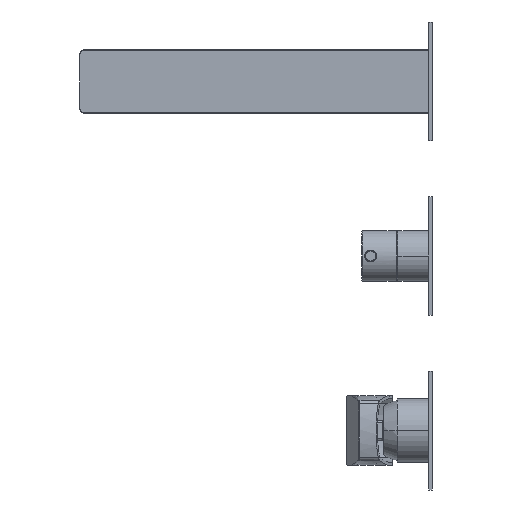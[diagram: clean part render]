
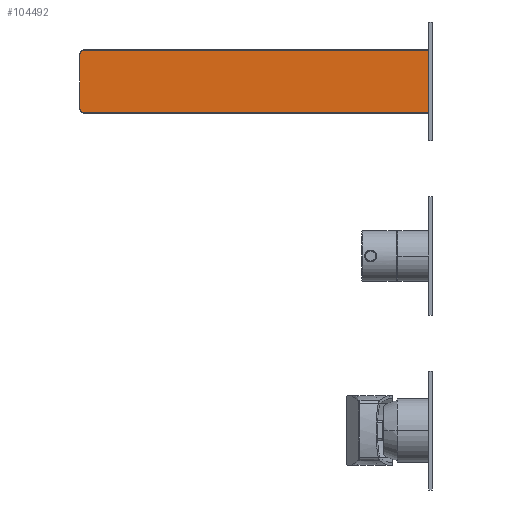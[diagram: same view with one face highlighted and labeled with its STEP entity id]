
A CAD part, left-side view. The second image highlights one B-rep face of the part: STEP entity #104492.
In plain terms, the highlighted planar face has unit normal (-1, 0, 0).
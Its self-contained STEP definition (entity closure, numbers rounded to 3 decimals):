
#97076=DIRECTION('',(0.,0.,-1.));
#97077=VECTOR('',#97076,39.205);
#97078=CARTESIAN_POINT('',(-10.5,77.,129.602));
#97079=LINE('',#97078,#97077);
#97080=DIRECTION('',(0.,-1.,0.));
#97081=VECTOR('',#97080,218.493);
#97082=CARTESIAN_POINT('',(-10.5,295.493,90.398));
#97083=LINE('',#97082,#97081);
#97084=CARTESIAN_POINT('',(-10.5,294.,93.));
#97085=DIRECTION('',(-1.,0.,0.));
#97086=DIRECTION('',(0.,1.,0.));
#97087=AXIS2_PLACEMENT_3D('',#97084,#97085,#97086);
#97089=CARTESIAN_POINT('',(-10.5,294.,127.));
#97090=DIRECTION('',(-1.,0.,0.));
#97091=DIRECTION('',(0.,0.498,0.867));
#97092=AXIS2_PLACEMENT_3D('',#97089,#97090,#97091);
#97094=DIRECTION('',(0.,-1.,0.));
#97095=VECTOR('',#97094,218.493);
#97096=CARTESIAN_POINT('',(-10.5,295.493,129.602));
#97097=LINE('',#97096,#97095);
#97137=DIRECTION('',(0.,0.,-1.));
#97138=VECTOR('',#97137,34.);
#97139=CARTESIAN_POINT('',(-10.5,297.,127.));
#97140=LINE('',#97139,#97138);
#97209=CARTESIAN_POINT('',(-10.5,295.493,129.602));
#99916=CARTESIAN_POINT('',(-10.5,297.,93.));
#99917=CARTESIAN_POINT('',(-10.5,295.493,90.398));
#99918=VERTEX_POINT('',#99916);
#99919=VERTEX_POINT('',#99917);
#99933=VERTEX_POINT('',#97209);
#99934=CARTESIAN_POINT('',(-10.5,297.,127.));
#99935=VERTEX_POINT('',#99934);
#99976=CARTESIAN_POINT('',(-10.5,77.,129.602));
#99977=CARTESIAN_POINT('',(-10.5,77.,90.398));
#99978=VERTEX_POINT('',#99976);
#99979=VERTEX_POINT('',#99977);
#104475=CARTESIAN_POINT('',(-10.5,297.,130.));
#104476=DIRECTION('',(-1.,0.,0.));
#104477=DIRECTION('',(0.,0.,-1.));
#104478=AXIS2_PLACEMENT_3D('',#104475,#104476,#104477);
#104479=PLANE('',#104478);
#104480=ORIENTED_EDGE('',*,*,#100899,.T.);
#104482=ORIENTED_EDGE('',*,*,#104481,.F.);
#104483=ORIENTED_EDGE('',*,*,#104463,.F.);
#104485=ORIENTED_EDGE('',*,*,#104484,.F.);
#104487=ORIENTED_EDGE('',*,*,#104486,.F.);
#104489=ORIENTED_EDGE('',*,*,#104488,.T.);
#104490=EDGE_LOOP('',(#104480,#104482,#104483,#104485,#104487,#104489));
#104491=FACE_OUTER_BOUND('',#104490,.F.);
#104492=ADVANCED_FACE('',(#104491),#104479,.T.);
#97088=CIRCLE('',#97087,3.);
#97093=CIRCLE('',#97092,3.);
#100899=EDGE_CURVE('',#99978,#99979,#97079,.T.);
#104463=EDGE_CURVE('',#99918,#99919,#97088,.T.);
#104481=EDGE_CURVE('',#99919,#99979,#97083,.T.);
#104484=EDGE_CURVE('',#99935,#99918,#97140,.T.);
#104486=EDGE_CURVE('',#99933,#99935,#97093,.T.);
#104488=EDGE_CURVE('',#99933,#99978,#97097,.T.);
